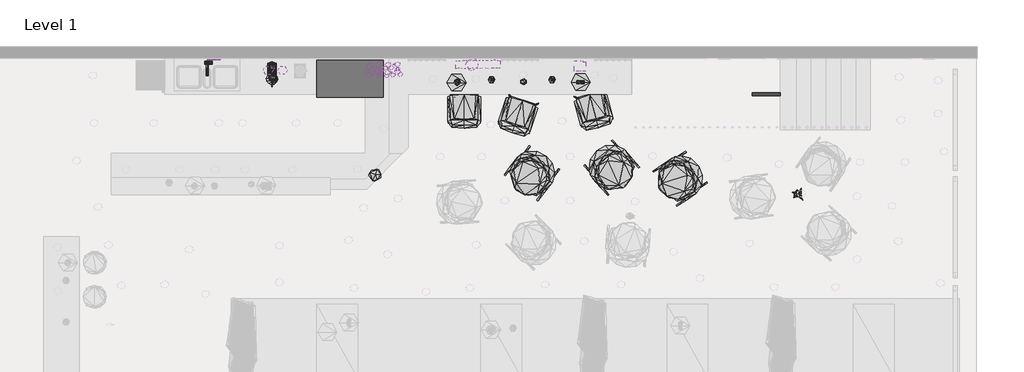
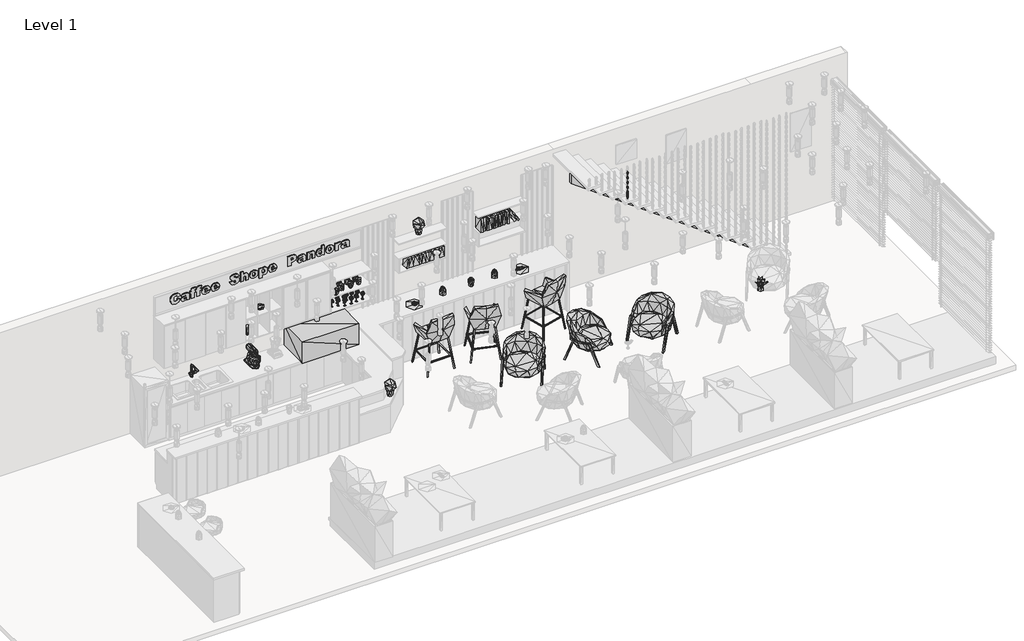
# One storey, part 3 of 12: 42 geographic elements, 8 proxies, 1 member.
"""IFC4 building model written with IfcOpenShell, lengths in millimetres."""

from ifc_helpers import new_model, si_unit, frame, origin, place, context, project, spatial, polyline, outline, extrude, transform, mapped, element, save
from components import family1_family1_50133a43, family1_family1_d3af85bb, geographic_element_4494242b, geographic_element_9d12d4a3, geographic_element_bb1f53bf, geographic_element_69d9df20, geographic_element_40146519, geographic_element_60f9364b, geographic_element_477b9549, enscape_assetdefinition_books_02_enscape_assetdefinition_e079a25d, enscape_assetdefinition_books_11_enscape_assetdefinition_afcb8159, enscape_assetdefinition_coffee_maker_05_enscape_f8d00087, enscape_assetdefinition_cup_porcelain_enscape_8265f1d1, enscape_assetdefinition_electric_mixer_enscape_94847bc3, enscape_assetdefinition_high_stool_05_enscape_95fe6d1b, enscape_assetdefinition_interior_plant_64_enscape_317deba9, enscape_assetdefinition_lounge_armchair_12_enscape_3d8580c7, enscape_assetdefinition_napkin_folded_enscape_c1d7dbe0, enscape_assetdefinition_plate_flat_enscape_assetdefinition_addf1cdb, enscape_assetdefinition_tap_enscape_assetdefinition_tap_beeff97c, enscape_assetdefinition_wine_glass_enscape_assetdefinition_9b546fad

model = new_model("IFC4")

# Units and contexts
model_context = context("Model", 3, world=origin())
ifc_project = project(units=[si_unit("LENGTHUNIT", "METRE", prefix="MILLI")], contexts=[model_context])

# Site, building, storey
site = spatial("IfcSite", under=ifc_project)
building = spatial("IfcBuilding", under=site)
storey = spatial("IfcBuildingStorey", under=building, Name="Level 1", Elevation=0.0)

# Proxies
placement = place(None, origin())
element("IfcBuildingElementProxy", 1, Name="600mm Arial", ObjectType="600mm Arial", at=placement, inside=storey, context=model_context, shape_type="SweptSolid", body=[
    extrude(outline(polyline([(2498.880992, 1407.8744291), (2481.9710834, 1402.5093763), (2469.6114776, 1394.6539552), (2462.0481367, 1383.3858071), (2459.527023, 1367.7825733), (2462.6092382, 1351.4645116), (2471.8558836, 1339.2816911), (2489.4037569, 1331.6952912), (2517.3896555, 1329.1664913), (2540.6638387, 1331.3494067), (2556.7436244, 1337.8981531), (2569.4260558, 1352.0102404), (2573.6535329, 1371.2260456), (2569.9026078, 1388.5663881), (2559.2032475, 1401.6638809), (2546.1057547, 1407.8744291), (2558.0349265, 1462.9699856), (2585.874785, 1449.3805682), (2605.444161, 1430.1340178), (2617.019762, 1403.9236596), (2620.8782956, 1369.4428189), (2619.1988343, 1346.1820867), (2614.1604502, 1325.7153327), (2605.7631433, 1308.0425567), (2594.0069137, 1293.1637588), (2579.1223511, 1281.367176), (2561.340045, 1272.9410454), (2540.6599955, 1267.8853671), (2517.0822026, 1266.200141), (2482.8934421, 1269.9971841), (2455.468645, 1281.3883134), (2435.0460873, 1298.0061417), (2421.8640449, 1317.4832818), (2414.6927065, 1341.403116), (2412.3022603, 1371.3490267), (2414.2776451, 1396.129729), (2420.2037994, 1416.1141664), (2430.0115463, 1432.2708153), (2443.631709, 1445.5681525), (2461.0719738, 1455.8524514), (2482.3400269, 1462.9699856), (2498.880992, 1407.8744291)])), frame((0.0, 2269.760891, 0.0), z_axis=(0.0, 1.0, 0.0), x_axis=(0.0, 0.0, 1.0)), (0.0, 0.0, 1.0), 20.0),
    extrude(outline(polyline([(2510.6871826, 1541.6779235), (2522.4318827, 1549.4257361), (2526.4287702, 1567.8114185), (2522.9238073, 1581.1548736), (2510.6871826, 1584.9672893), (2504.1999268, 1565.9359559), (2495.4990102, 1526.6742229), (2489.0578724, 1505.3831108), (2479.9418944, 1492.0550283), (2468.0434679, 1484.9989847), (2453.2549842, 1482.6469701), (2437.2981796, 1485.9059707), (2424.108451, 1495.6829723), (2415.253808, 1511.7473854), (2412.3022603, 1533.8686203), (2414.2084682, 1551.6547695), (2419.9270918, 1567.1350222), (2439.0506611, 1588.1647993), (2427.2137251, 1590.1017525), (2416.2376572, 1594.2523664), (2416.2376572, 1647.0727716), (2431.1798673, 1641.3541479), (2447.3518889, 1640.0628458), (2511.9169942, 1640.0628458), (2533.6231677, 1636.0352131), (2551.2094725, 1624.9976546), (2558.6037143, 1613.790997), (2562.9541726, 1600.0939711), (2565.7827391, 1560.4940399), (2563.1078991, 1531.9316671), (2555.636794, 1511.2400882), (2539.74148, 1495.1295571), (2514.6225795, 1486.582367), (2510.6871826, 1541.6779235)]), holes=[polyline([(2483.1394044, 1584.9672893), (2476.375441, 1584.9672893), (2463.4931652, 1581.8005246), (2455.0997015, 1571.1011643), (2451.6562292, 1554.7754163), (2454.8229939, 1542.0776123), (2463.0319859, 1537.7425266), (2470.8412891, 1542.1083575), (2477.6052525, 1562.4002478), (2483.1394044, 1584.9672893)])]), frame((0.0, 2269.760891, 0.0), z_axis=(0.0, 1.0, 0.0), x_axis=(0.0, 0.0, 1.0)), (0.0, 0.0, 1.0), 20.0),
    extrude(outline(polyline([(2561.8473422, 1844.7034843), (2572.6081931, 1845.3798806), (2579.3721565, 1850.1761456), (2581.5243267, 1861.3674305), (2580.1100435, 1877.9698861), (2617.0658799, 1884.0574532), (2620.8782956, 1841.4444837), (2616.6661912, 1813.527762), (2605.659378, 1798.7085331), (2588.1345637, 1791.5141356), (2568.4268339, 1789.6079278), (2561.8473422, 1789.6079278), (2561.8473422, 1769.9309433), (2522.4933733, 1769.9309433), (2522.4933733, 1789.6079278), (2416.2376572, 1789.6079278), (2416.2376572, 1844.7034843), (2522.4933733, 1844.7034843), (2522.4933733, 1872.2512625), (2561.8473422, 1872.2512625), (2561.8473422, 1844.7034843)])), frame((0.0, 2269.760891, 0.0), z_axis=(0.0, 1.0, 0.0), x_axis=(0.0, 0.0, 1.0)), (0.0, 0.0, 1.0), 20.0),
    extrude(outline(polyline([(2561.8473422, 1734.5123713), (2572.6081931, 1735.1887676), (2579.3721565, 1739.9850326), (2581.5243267, 1751.1763175), (2580.1100435, 1767.7787731), (2617.0658799, 1773.8663402), (2620.8782956, 1731.2533707), (2616.6661912, 1703.336649), (2605.659378, 1688.5174201), (2588.1345637, 1681.3230226), (2568.4268339, 1679.4168148), (2561.8473422, 1679.4168148), (2561.8473422, 1659.7398303), (2522.4933733, 1659.7398303), (2522.4933733, 1679.4168148), (2416.2376572, 1679.4168148), (2416.2376572, 1734.5123713), (2522.4933733, 1734.5123713), (2522.4933733, 1762.0601495), (2561.8473422, 1762.0601495), (2561.8473422, 1734.5123713)])), frame((0.0, 2269.760891, 0.0), z_axis=(0.0, 1.0, 0.0), x_axis=(0.0, 0.0, 1.0)), (0.0, 0.0, 1.0), 20.0),
    extrude(outline(polyline([(2475.2686106, 2053.2795196), (2481.60214, 2053.2795196), (2507.8432435, 2050.9582504), (2528.642431, 2043.9944426), (2544.5838629, 2032.595627), (2556.2516998, 2016.9693342), (2563.3999793, 1996.008734), (2565.7827391, 1968.6069958), (2560.456118, 1934.9332189), (2553.7978415, 1921.1574082), (2544.4762544, 1909.422316), (2519.9030828, 1893.3502166), (2488.7965374, 1887.9928501), (2466.1526326, 1890.6523175), (2446.6754925, 1898.6307198), (2431.1952399, 1910.6521275), (2420.5419975, 1925.4406112), (2414.3621946, 1944.6102984), (2412.3022603, 1969.7753168), (2415.0462773, 1998.514475), (2423.2783282, 2019.6749196), (2437.8285359, 2035.7777643), (2459.527023, 2049.3441227), (2463.4624199, 1994.2485662), (2455.2841732, 1984.9634892), (2451.6562292, 1970.0827697), (2453.5470645, 1958.8761121), (2459.2195701, 1949.9753512), (2475.2686106, 1943.0884066), (2475.2686106, 2053.2795196)]), holes=[polyline([(2502.8163888, 1998.1839631), (2502.8163888, 1943.2113878), (2518.189033, 1949.6678983), (2524.3688359, 1958.9376027), (2526.4287702, 1970.8821472), (2525.0606049, 1981.3124862), (2520.9561089, 1989.4830465), (2513.6848482, 1995.1786112), (2502.8163888, 1998.1839631)])]), frame((0.0, 2269.760891, 0.0), z_axis=(0.0, 1.0, 0.0), x_axis=(0.0, 0.0, 1.0)), (0.0, 0.0, 1.0), 20.0),
    extrude(outline(polyline([(2475.2686106, 2238.2431736), (2481.60214, 2238.2431736), (2507.8432435, 2235.9219043), (2528.642431, 2228.9580965), (2544.5838629, 2217.5592809), (2556.2516998, 2201.9329882), (2563.3999793, 2180.9723879), (2565.7827391, 2153.5706498), (2560.456118, 2119.8968729), (2553.7978415, 2106.1210622), (2544.4762544, 2094.38597), (2519.9030828, 2078.3138706), (2488.7965374, 2072.9565041), (2466.1526326, 2075.6159715), (2446.6754925, 2083.5943738), (2431.1952399, 2095.6157815), (2420.5419975, 2110.4042651), (2414.3621946, 2129.5739524), (2412.3022603, 2154.7389708), (2415.0462773, 2183.4781289), (2423.2783282, 2204.6385736), (2437.8285359, 2220.7414183), (2459.527023, 2234.3077767), (2463.4624199, 2179.2122202), (2455.2841732, 2169.9271432), (2451.6562292, 2155.0464236), (2453.5470645, 2143.8397661), (2459.2195701, 2134.9390051), (2475.2686106, 2128.0520606), (2475.2686106, 2238.2431736)]), holes=[polyline([(2502.8163888, 2183.1476171), (2502.8163888, 2128.1750417), (2518.189033, 2134.6315523), (2524.3688359, 2143.9012567), (2526.4287702, 2155.8458011), (2525.0606049, 2166.2761402), (2520.9561089, 2174.4467005), (2513.6848482, 2180.1422652), (2502.8163888, 2183.1476171)])]), frame((0.0, 2269.760891, 0.0), z_axis=(0.0, 1.0, 0.0), x_axis=(0.0, 0.0, 1.0)), (0.0, 0.0, 1.0), 20.0),
    extrude(outline(polyline([(2483.2623855, 2442.883812), (2455.0997015, 2449.7246387), (2432.3481882, 2465.0819101), (2423.5780948, 2476.8419829), (2417.3137423, 2492.5067072), (2412.3022603, 2535.5501108), (2414.4390578, 2562.0832945), (2420.8494504, 2583.6357415), (2431.4027706, 2600.5840817), (2445.9683509, 2613.3049447), (2463.2856345, 2621.260288), (2482.0940646, 2623.9120691), (2498.0124376, 2621.928998), (2512.3166829, 2615.9797848), (2524.7147204, 2605.6647406), (2534.9144698, 2590.5841767), (2543.9689571, 2567.4022294), (2552.9312087, 2532.7830348), (2556.5745253, 2520.2235846), (2560.4945496, 2515.1352394), (2569.3491926, 2513.7209561), (2580.7556945, 2517.8408247), (2585.4597236, 2530.13894), (2583.822537, 2538.9705241), (2578.9109772, 2545.6653106), (2557.9119454, 2553.074925), (2561.5398894, 2616.0412753), (2588.2882901, 2608.2550311), (2606.6739725, 2592.3981487), (2617.3272149, 2568.0248214), (2620.8782956, 2534.6892427), (2618.9105972, 2507.1107191), (2613.0075019, 2486.1116873), (2603.6763069, 2470.6237483), (2591.4243095, 2459.5785035), (2577.2814769, 2452.9605803), (2562.2777763, 2450.7546058), (2540.8329377, 2455.1050641), (2523.6002037, 2468.156439), (2509.8570599, 2491.1846598), (2499.0039731, 2525.8345997), (2493.2238589, 2545.6806832), (2487.0748013, 2555.7805104), (2472.8089875, 2560.9457188), (2464.8997621, 2559.3700228), (2458.0205039, 2554.6429347), (2453.2472979, 2547.0104169), (2451.6562292, 2536.7184317), (2454.8229939, 2522.8984246), (2464.323288, 2512.6756163), (2487.0748013, 2505.8501623), (2483.2623855, 2442.883812)])), frame((0.0, 2269.760891, 0.0), z_axis=(0.0, 1.0, 0.0), x_axis=(0.0, 0.0, 1.0)), (0.0, 0.0, 1.0), 20.0),
    extrude(outline(polyline([(2616.9428987, 2651.4598474), (2416.2376572, 2651.4598474), (2416.2376572, 2706.5554039), (2486.8903295, 2706.5554039), (2503.9078466, 2708.1772178), (2514.7455607, 2713.0426597), (2520.5564202, 2720.5214511), (2522.4933733, 2729.9833135), (2521.0560311, 2738.3460319), (2516.7440044, 2744.6180707), (2508.9731328, 2748.538095), (2497.1592558, 2749.8447697), (2416.2376572, 2749.8447697), (2416.2376572, 2804.9403262), (2509.2114088, 2804.9403262), (2534.2688187, 2801.6582667), (2551.8858689, 2791.8120881), (2562.3085216, 2776.2626586), (2565.7827391, 2755.8708462), (2560.7405119, 2729.2146813), (2543.9535845, 2706.5554039), (2616.9428987, 2706.5554039), (2616.9428987, 2651.4598474)])), frame((0.0, 2269.760891, 0.0), z_axis=(0.0, 1.0, 0.0), x_axis=(0.0, 0.0, 1.0)), (0.0, 0.0, 1.0), 20.0),
    extrude(outline(polyline([(2488.6120657, 2832.4881045), (2471.4292927, 2834.0907026), (2455.9759422, 2838.8984971), (2442.2520142, 2846.9114878), (2430.2575086, 2858.1296748), (2416.7910724, 2882.2800987), (2412.3022603, 2912.9177785), (2417.713431, 2946.7452818), (2424.4773944, 2960.5748968), (2433.9469432, 2972.3484206), (2458.6507823, 2988.466638), (2489.4729338, 2993.8393771), (2517.2205564, 2989.5042914), (2540.2026593, 2976.4990345), (2551.3939442, 2964.4468815), (2559.3877192, 2949.8121243), (2564.1839841, 2932.5947629), (2565.7827391, 2912.7947973), (2560.3408231, 2879.6590629), (2553.5384281, 2865.9562723), (2544.0150751, 2854.1635327), (2519.2804907, 2837.9069615), (2488.6120657, 2832.4881045)]), holes=[polyline([(2489.1039903, 2887.583661), (2505.5680921, 2889.4206919), (2517.2051837, 2894.9317848), (2524.1228736, 2903.2714443), (2526.4287702, 2913.5941748), (2524.1536189, 2923.4249807), (2517.3281649, 2931.5186778), (2505.8601724, 2936.9375349), (2489.6574055, 2938.7438206), (2472.4554167, 2936.9529075), (2460.695344, 2931.5801684), (2453.9160079, 2923.4096081), (2451.6562292, 2913.2252313), (2453.9467532, 2903.1023452), (2460.8183251, 2894.8702943), (2472.4707894, 2889.4053193), (2489.1039903, 2887.583661)])]), frame((0.0, 2269.760891, 0.0), z_axis=(0.0, 1.0, 0.0), x_axis=(0.0, 0.0, 1.0)), (0.0, 0.0, 1.0), 20.0),
    extrude(outline(polyline([(2361.1421007, 3021.3871553), (2361.1421007, 3076.4827118), (2428.7202442, 3076.4827118), (2416.4528742, 3095.8829887), (2412.3022603, 3119.9565494), (2417.1215842, 3144.791056), (2431.579556, 3164.9369061), (2455.1996237, 3178.2880475), (2487.5052353, 3182.7384279), (2518.0429928, 3178.6646773), (2543.2464429, 3166.4434252), (2553.1060725, 3157.4504284), (2560.1486651, 3146.7664407), (2565.7827391, 3120.3254928), (2564.2147294, 3105.8752074), (2559.5107003, 3092.7777146), (2541.6169426, 3072.4858244), (2561.8473422, 3072.4858244), (2561.8473422, 3021.3871553), (2361.1421007, 3021.3871553)]), holes=[polyline([(2488.2431222, 3076.0522778), (2505.6218964, 3077.943113), (2517.4204008, 3083.6156187), (2524.1766778, 3092.1320635), (2526.4287702, 3102.5547162), (2524.1997368, 3112.262541), (2517.5126366, 3120.3562381), (2506.0600168, 3125.8212131), (2489.5344243, 3127.6428714), (2471.9250605, 3125.89039), (2460.2956552, 3120.6329457), (2453.8160857, 3112.7928972), (2451.6562292, 3103.2926032), (2453.9083216, 3092.5086933), (2460.6645987, 3083.7693451), (2472.0634143, 3077.9815446), (2488.2431222, 3076.0522778)])]), frame((0.0, 2269.760891, 0.0), z_axis=(0.0, 1.0, 0.0), x_axis=(0.0, 0.0, 1.0)), (0.0, 0.0, 1.0), 20.0),
    extrude(outline(polyline([(2475.2686106, 3367.7020819), (2481.60214, 3367.7020819), (2507.8432435, 3365.3808127), (2528.642431, 3358.4170049), (2544.5838629, 3347.0181893), (2556.2516998, 3331.3918965), (2563.3999793, 3310.4312963), (2565.7827391, 3283.0295581), (2560.456118, 3249.3557812), (2553.7978415, 3235.5799705), (2544.4762544, 3223.8448783), (2519.9030828, 3207.7727789), (2488.7965374, 3202.4154124), (2466.1526326, 3205.0748798), (2446.6754925, 3213.0532821), (2431.1952399, 3225.0746898), (2420.5419975, 3239.8631735), (2414.3621946, 3259.0328607), (2412.3022603, 3284.1978791), (2415.0462773, 3312.9370373), (2423.2783282, 3334.0974819), (2437.8285359, 3350.2003266), (2459.527023, 3363.766685), (2463.4624199, 3308.6711285), (2455.2841732, 3299.3860515), (2451.6562292, 3284.505332), (2453.5470645, 3273.2986744), (2459.2195701, 3264.3979135), (2475.2686106, 3257.5109689), (2475.2686106, 3367.7020819)]), holes=[polyline([(2502.8163888, 3312.6065254), (2502.8163888, 3257.6339501), (2518.189033, 3264.0904606), (2524.3688359, 3273.360165), (2526.4287702, 3285.3047095), (2525.0606049, 3295.7350485), (2520.9561089, 3303.9056089), (2513.6848482, 3309.6011735), (2502.8163888, 3312.6065254)])]), frame((0.0, 2269.760891, 0.0), z_axis=(0.0, 1.0, 0.0), x_axis=(0.0, 0.0, 1.0)), (0.0, 0.0, 1.0), 20.0),
    extrude(outline(polyline([(2616.9428987, 3584.148911), (2416.2376572, 3584.148911), (2416.2376572, 3647.1152613), (2479.2040075, 3647.1152613), (2479.2040075, 3680.5046444), (2483.869605, 3712.6719022), (2489.7016018, 3725.210215), (2497.8663974, 3735.3849838), (2520.1644177, 3748.874479), (2549.7336987, 3753.3709775), (2578.2730125, 3749.2049909), (2599.4488297, 3736.7070312), (2612.5693815, 3715.8463532), (2616.9428987, 3686.5922114), (2616.9428987, 3584.148911)]), holes=[polyline([(2526.4287702, 3647.1152613), (2569.718136, 3647.1152613), (2569.718136, 3663.1643018), (2568.1270674, 3676.4462663), (2563.3538614, 3684.6860036), (2547.8889814, 3690.4046272), (2539.3264186, 3688.7597542), (2532.4548467, 3683.8251355), (2527.9352893, 3674.816766), (2526.4287702, 3660.950641), (2526.4287702, 3647.1152613)])]), frame((0.0, 2269.760891, 0.0), z_axis=(0.0, 1.0, 0.0), x_axis=(0.0, 0.0, 1.0)), (0.0, 0.0, 1.0), 20.0),
    extrude(outline(polyline([(2510.6871826, 3836.0143122), (2522.4318827, 3843.7621248), (2526.4287702, 3862.1478072), (2522.9238073, 3875.4912623), (2510.6871826, 3879.303678), (2504.1999268, 3860.2723446), (2495.4990102, 3821.0106116), (2489.0578724, 3799.7194995), (2479.9418944, 3786.391417), (2468.0434679, 3779.3353734), (2453.2549842, 3776.9833588), (2437.2981796, 3780.2423594), (2424.108451, 3790.019361), (2415.253808, 3806.0837741), (2412.3022603, 3828.205009), (2414.2084682, 3845.9911582), (2419.9270918, 3861.4714109), (2439.0506611, 3882.501188), (2427.2137251, 3884.4381412), (2416.2376572, 3888.5887551), (2416.2376572, 3941.4091603), (2431.1798673, 3935.6905366), (2447.3518889, 3934.3992345), (2511.9169942, 3934.3992345), (2533.6231677, 3930.3716018), (2551.2094725, 3919.3340433), (2558.6037143, 3908.1273857), (2562.9541726, 3894.4303598), (2565.7827391, 3854.8304286), (2563.1078991, 3826.2680558), (2555.636794, 3805.5764769), (2539.74148, 3789.4659458), (2514.6225795, 3780.9187557), (2510.6871826, 3836.0143122)]), holes=[polyline([(2483.1394044, 3879.303678), (2476.375441, 3879.303678), (2463.4931652, 3876.1369133), (2455.0997015, 3865.437553), (2451.6562292, 3849.111805), (2454.8229939, 3836.414001), (2463.0319859, 3832.0789153), (2470.8412891, 3836.4447462), (2477.6052525, 3856.7366365), (2483.1394044, 3879.303678)])]), frame((0.0, 2269.760891, 0.0), z_axis=(0.0, 1.0, 0.0), x_axis=(0.0, 0.0, 1.0)), (0.0, 0.0, 1.0), 20.0),
    extrude(outline(polyline([(2561.8473422, 3965.8824097), (2416.2376572, 3965.8824097), (2416.2376572, 4020.9779662), (2486.8903295, 4020.9779662), (2503.9078466, 4022.5997801), (2514.7455607, 4027.465222), (2520.5564202, 4034.9440134), (2522.4933733, 4044.4058758), (2521.0560311, 4052.7685942), (2516.7440044, 4059.040633), (2508.9731328, 4062.9606573), (2497.1592558, 4064.267332), (2416.2376572, 4064.267332), (2416.2376572, 4119.3628885), (2509.2114088, 4119.3628885), (2534.3456819, 4116.080829), (2551.9473594, 4106.2346504), (2562.3238942, 4090.5929851), (2565.7827391, 4069.924465), (2564.2224158, 4054.0675826), (2559.5414456, 4040.8086771), (2551.2325315, 4028.9179369), (2538.7883761, 4017.1655504), (2561.8473422, 4017.1655504), (2561.8473422, 3965.8824097)])), frame((0.0, 2269.760891, 0.0), z_axis=(0.0, 1.0, 0.0), x_axis=(0.0, 0.0, 1.0)), (0.0, 0.0, 1.0), 20.0),
    extrude(outline(polyline([(2616.9428987, 4304.3265425), (2616.9428987, 4249.230986), (2549.2417741, 4249.230986), (2561.6628705, 4230.6608319), (2565.7827391, 4207.3559034), (2560.9403562, 4183.3515196), (2546.4132076, 4163.9743017), (2522.7700809, 4151.1765755), (2490.5797641, 4146.9106668), (2460.3878911, 4150.7692004), (2435.1152642, 4162.3448015), (2425.134575, 4170.9304232), (2418.0055113, 4181.2531537), (2412.3022603, 4207.1099411), (2413.8395247, 4221.0068114), (2418.4513179, 4233.550889), (2436.5295474, 4253.2278735), (2416.2376572, 4253.2278735), (2416.2376572, 4304.3265425), (2616.9428987, 4304.3265425)]), holes=[polyline([(2489.9033678, 4249.66142), (2472.4400441, 4247.9089386), (2460.6338534, 4242.6514943), (2453.9006353, 4234.7807005), (2451.6562292, 4225.1881706), (2453.8852626, 4216.1413695), (2460.5723628, 4208.6779508), (2472.0403553, 4203.6741552), (2488.6120657, 4202.0062233), (2506.13688, 4203.6203509), (2517.7585989, 4208.4627338), (2524.2612274, 4215.7032492), (2526.4287702, 4224.5117743), (2524.1689915, 4234.457875), (2517.3896555, 4242.5285132), (2505.9985262, 4247.8781933), (2489.9033678, 4249.66142)])]), frame((0.0, 2269.760891, 0.0), z_axis=(0.0, 1.0, 0.0), x_axis=(0.0, 0.0, 1.0)), (0.0, 0.0, 1.0), 20.0),
    extrude(outline(polyline([(2488.6120657, 4331.8743207), (2471.4292927, 4333.4769189), (2455.9759422, 4338.2847133), (2442.2520142, 4346.2977041), (2430.2575086, 4357.5158911), (2416.7910724, 4381.666315), (2412.3022603, 4412.3039947), (2417.713431, 4446.1314981), (2424.4773944, 4459.9611131), (2433.9469432, 4471.7346369), (2458.6507823, 4487.8528542), (2489.4729338, 4493.2255934), (2517.2205564, 4488.8905077), (2540.2026593, 4475.8852508), (2551.3939442, 4463.8330978), (2559.3877192, 4449.1983406), (2564.1839841, 4431.9809792), (2565.7827391, 4412.1810136), (2560.3408231, 4379.0452792), (2553.5384281, 4365.3424886), (2544.0150751, 4353.5497489), (2519.2804907, 4337.2931778), (2488.6120657, 4331.8743207)]), holes=[polyline([(2489.1039903, 4386.9698772), (2505.5680921, 4388.8069082), (2517.2051837, 4394.3180011), (2524.1228736, 4402.6576606), (2526.4287702, 4412.9803911), (2524.1536189, 4422.811197), (2517.3281649, 4430.9048941), (2505.8601724, 4436.3237512), (2489.6574055, 4438.1300369), (2472.4554167, 4436.3391238), (2460.695344, 4430.9663847), (2453.9160079, 4422.7958244), (2451.6562292, 4412.6114476), (2453.9467532, 4402.4885615), (2460.8183251, 4394.2565106), (2472.4707894, 4388.7915356), (2489.1039903, 4386.9698772)])]), frame((0.0, 2269.760891, 0.0), z_axis=(0.0, 1.0, 0.0), x_axis=(0.0, 0.0, 1.0)), (0.0, 0.0, 1.0), 20.0),
    extrude(outline(polyline([(2561.8473422, 4520.7733716), (2416.2376572, 4520.7733716), (2416.2376572, 4575.8689281), (2465.3686278, 4575.8689281), (2494.9609677, 4578.0518436), (2513.392768, 4584.60059), (2520.218222, 4591.9333412), (2522.4933733, 4601.7564608), (2518.3735047, 4617.4980484), (2557.5430019, 4634.8998815), (2563.7228048, 4620.7263036), (2565.7827391, 4607.7210467), (2564.3146516, 4596.7987831), (2559.9103891, 4587.7673547), (2538.4194326, 4572.118003), (2561.8473422, 4572.118003), (2561.8473422, 4520.7733716)])), frame((0.0, 2269.760891, 0.0), z_axis=(0.0, 1.0, 0.0), x_axis=(0.0, 0.0, 1.0)), (0.0, 0.0, 1.0), 20.0),
    extrude(outline(polyline([(2510.6871826, 4697.8662318), (2522.4318827, 4705.6140444), (2526.4287702, 4723.9997268), (2522.9238073, 4737.3431819), (2510.6871826, 4741.1555976), (2504.1999268, 4722.1242642), (2495.4990102, 4682.8625312), (2489.0578724, 4661.5714191), (2479.9418944, 4648.2433366), (2468.0434679, 4641.187293), (2453.2549842, 4638.8352784), (2437.2981796, 4642.094279), (2424.108451, 4651.8712806), (2415.253808, 4667.9356937), (2412.3022603, 4690.0569286), (2414.2084682, 4707.8430778), (2419.9270918, 4723.3233305), (2439.0506611, 4744.3531076), (2427.2137251, 4746.2900608), (2416.2376572, 4750.4406747), (2416.2376572, 4803.2610799), (2431.1798673, 4797.5424562), (2447.3518889, 4796.2511541), (2511.9169942, 4796.2511541), (2533.6231677, 4792.2235214), (2551.2094725, 4781.1859629), (2558.6037143, 4769.9793053), (2562.9541726, 4756.2822794), (2565.7827391, 4716.6823482), (2563.1078991, 4688.1199754), (2555.636794, 4667.4283965), (2539.74148, 4651.3178654), (2514.6225795, 4642.7706753), (2510.6871826, 4697.8662318)]), holes=[polyline([(2483.1394044, 4741.1555976), (2476.375441, 4741.1555976), (2463.4931652, 4737.9888329), (2455.0997015, 4727.2894726), (2451.6562292, 4710.9637246), (2454.8229939, 4698.2659206), (2463.0319859, 4693.9308349), (2470.8412891, 4698.2966658), (2477.6052525, 4718.5885561), (2483.1394044, 4741.1555976)])]), frame((0.0, 2269.760891, 0.0), z_axis=(0.0, 1.0, 0.0), x_axis=(0.0, 0.0, 1.0)), (0.0, 0.0, 1.0), 20.0),
])
family1_family1_shape = family1_family1_50133a43(model_context)
element("IfcBuildingElementProxy", 2, Name="Family1 : Family1", ObjectType="Family1 : Family1", at=placement, inside=storey, context=model_context, shape_type="MappedRepresentation", body=[
    mapped(family1_family1_shape, transform((11865.1232124, 1139.760891, 1153.4212736), x_axis=(-0.03315618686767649, 0.0, 0.9994501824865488), y_axis=(-0.9994501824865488, 0.0, -0.03315618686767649), z_axis=(0.0, -1.0, 0.0))),
])
element("IfcBuildingElementProxy", 3, Name="Family1 : Family1", ObjectType="Family1 : Family1", at=placement, inside=storey, context=model_context, shape_type="MappedRepresentation", body=[
    mapped(family1_family1_shape, transform((11865.1232124, 1139.760891, 1253.4212736), x_axis=(-0.03315618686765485, 0.0, 0.9994501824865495), y_axis=(-0.9994501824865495, 0.0, -0.03315618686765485), z_axis=(0.0, -1.0, 0.0))),
])
element("IfcBuildingElementProxy", 4, Name="Family1 : Family1", ObjectType="Family1 : Family1", at=placement, inside=storey, context=model_context, shape_type="MappedRepresentation", body=[
    mapped(family1_family1_shape, transform((11865.1232124, 1139.760891, 1353.4212736), x_axis=(-0.03315618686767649, 0.0, 0.9994501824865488), y_axis=(-0.9994501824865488, 0.0, -0.03315618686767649), z_axis=(0.0, -1.0, 0.0))),
])
element("IfcBuildingElementProxy", 5, Name="Family1 : Family1", ObjectType="Family1 : Family1", at=placement, inside=storey, context=model_context, shape_type="MappedRepresentation", body=[
    mapped(family1_family1_shape, transform((11865.1232124, 1139.760891, 1453.4212736), x_axis=(-0.03315618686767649, 0.0, 0.9994501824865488), y_axis=(-0.9994501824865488, 0.0, -0.03315618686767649), z_axis=(0.0, -1.0, 0.0))),
])
element("IfcBuildingElementProxy", 6, Name="Family1 : Family1", ObjectType="Family1 : Family1", at=placement, inside=storey, context=model_context, shape_type="MappedRepresentation", body=[
    mapped(family1_family1_shape, transform((11865.1232124, 1139.760891, 1553.4212736), x_axis=(-0.03315618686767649, 0.0, 0.9994501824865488), y_axis=(-0.9994501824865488, 0.0, -0.03315618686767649), z_axis=(0.0, -1.0, 0.0))),
])
element("IfcBuildingElementProxy", 7, Name="Family1 : Family1", ObjectType="Family1 : Family1", at=placement, inside=storey, context=model_context, shape_type="MappedRepresentation", body=[
    mapped(family1_family1_shape, transform((11865.1232124, 1139.760891, 1653.4212736), x_axis=(-0.03315618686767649, 0.0, 0.9994501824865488), y_axis=(-0.9994501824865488, 0.0, -0.03315618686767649), z_axis=(0.0, -1.0, 0.0))),
])
family1_family1_2_shape = family1_family1_d3af85bb(model_context)
element("IfcBuildingElementProxy", 8, Name="Family1 : Family1", ObjectType="Family1 : Family1", at=placement, inside=storey, context=model_context, shape_type="MappedRepresentation", body=[
    mapped(family1_family1_2_shape, transform((11865.1232124, 1139.760891, 1203.4212736), x_axis=(-0.03315618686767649, 0.0, 0.9994501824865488), y_axis=(-0.9994501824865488, 0.0, -0.03315618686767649), z_axis=(0.0, -1.0, 0.0))),
])

# Geographic elements
geographic_element_shape = geographic_element_4494242b(model_context)
element("IfcGeographicElement", 9, ObjectType="Enscape AssetDefinition - Papercup, Big : Enscape AssetDefinition - Papercup, Big", at=placement, inside=storey, context=model_context, shape_type="MappedRepresentation", body=[
    mapped(geographic_element_shape, transform((6990.6769044, 1909.760891, 1040.0), x_axis=(1.0, 0.0, 0.0), y_axis=(0.0, 1.0, 0.0), z_axis=(0.0, 0.0, 1.0))),
])
geographic_element_2_shape = geographic_element_9d12d4a3(model_context)
element("IfcGeographicElement", 10, ObjectType="Enscape AssetDefinition - Pastry 05 : Enscape AssetDefinition - Pastry 05", at=placement, inside=storey, context=model_context, shape_type="MappedRepresentation", body=[
    mapped(geographic_element_2_shape, transform((7950.6769044, 1899.760891, 1055.0), x_axis=(1.0, 0.0, 0.0), y_axis=(0.0, 1.0, 0.0), z_axis=(0.0, 0.0, 1.0))),
])
geographic_element_3_shape = geographic_element_bb1f53bf(model_context)
element("IfcGeographicElement", 11, ObjectType="Enscape AssetDefinition - Pastry 09 : Enscape AssetDefinition - Pastry 09", at=placement, inside=storey, context=model_context, shape_type="MappedRepresentation", body=[
    mapped(geographic_element_3_shape, transform((5870.6769044, 1899.760891, 1055.0), x_axis=(1.0, 0.0, 0.0), y_axis=(0.0, 1.0, 0.0), z_axis=(0.0, 0.0, 1.0))),
])
geographic_element_4_shape = geographic_element_69d9df20(model_context)
element("IfcGeographicElement", 12, ObjectType="Enscape AssetDefinition - Rosemary, Potted : Enscape AssetDefinition - Rosemary, Potted", at=placement, inside=storey, context=model_context, shape_type="MappedRepresentation", body=[
    mapped(geographic_element_4_shape, transform((4486.020542, 339.6193639, 590.0), x_axis=(1.0, 0.0, 0.0), y_axis=(0.0, 1.0, 0.0), z_axis=(0.0, 0.0, 1.0))),
])
element("IfcGeographicElement", 13, ObjectType="Enscape AssetDefinition - Rosemary, Potted : Enscape AssetDefinition - Rosemary, Potted", at=placement, inside=storey, context=model_context, shape_type="MappedRepresentation", body=[
    mapped(geographic_element_4_shape, transform((6120.6769044, 2199.760891, 2260.0), x_axis=(1.0, 0.0, 0.0), y_axis=(0.0, 1.0, 0.0), z_axis=(0.0, 0.0, 1.0))),
])
geographic_element_5_shape = geographic_element_40146519(model_context)
element("IfcGeographicElement", 14, ObjectType="Enscape AssetDefinition - Cereal Bowl 02 : Enscape AssetDefinition - Cereal Bowl 02", at=placement, inside=storey, context=model_context, shape_type="MappedRepresentation", body=[
    mapped(geographic_element_5_shape, transform((2933.7993478, 2099.760891, 1860.1419541), x_axis=(1.0, 0.0, 0.0), y_axis=(0.0, 1.0, 0.0), z_axis=(0.0, 0.0, 1.0))),
])
geographic_element_6_shape = geographic_element_60f9364b(model_context)
element("IfcGeographicElement", 15, ObjectType="Enscape AssetDefinition - Stack of Bowls 02 : Enscape AssetDefinition - Stack of Bowls 02", at=placement, inside=storey, context=model_context, shape_type="MappedRepresentation", body=[
    mapped(geographic_element_6_shape, transform((2688.7993478, 2099.760891, 1420.0), x_axis=(1.0, 0.0, 0.0), y_axis=(0.0, 1.0, 0.0), z_axis=(0.0, 0.0, 1.0))),
])
geographic_element_7_shape = geographic_element_477b9549(model_context)
element("IfcGeographicElement", 16, ObjectType="Enscape AssetDefinition - Coffee Mug : Enscape AssetDefinition - Coffee Mug", at=placement, inside=storey, context=model_context, shape_type="MappedRepresentation", body=[
    mapped(geographic_element_7_shape, transform((4534.0007184, 2089.760891, 1720.0), x_axis=(0.0, -1.0, 0.0), y_axis=(1.0, 0.0, 0.0), z_axis=(0.0, 0.0, 1.0))),
])
element("IfcGeographicElement", 17, ObjectType="Enscape AssetDefinition - Coffee Mug : Enscape AssetDefinition - Coffee Mug", at=placement, inside=storey, context=model_context, shape_type="MappedRepresentation", body=[
    mapped(geographic_element_7_shape, transform((4389.2007184, 2154.960891, 1720.0), x_axis=(0.0, 1.0, 0.0), y_axis=(-1.0, 0.0, 0.0), z_axis=(0.0, 0.0, 1.0))),
])
element("IfcGeographicElement", 18, ObjectType="Enscape AssetDefinition - Coffee Mug : Enscape AssetDefinition - Coffee Mug", at=placement, inside=storey, context=model_context, shape_type="MappedRepresentation", body=[
    mapped(geographic_element_7_shape, transform((4379.4007184, 2020.160891, 1720.0), x_axis=(1.0, 0.0, 0.0), y_axis=(0.0, 1.0, 0.0), z_axis=(0.0, 0.0, 1.0))),
])
element("IfcGeographicElement", 19, ObjectType="Enscape AssetDefinition - Coffee Mug : Enscape AssetDefinition - Coffee Mug", at=placement, inside=storey, context=model_context, shape_type="MappedRepresentation", body=[
    mapped(geographic_element_7_shape, transform((4709.2007184, 2191.0973325, 1720.0), x_axis=(0.0, -1.0, 0.0), y_axis=(1.0, 0.0, 0.0), z_axis=(0.0, 0.0, 1.0))),
])
enscape_assetdefinition_books_02_enscape_assetdefinition_shape = enscape_assetdefinition_books_02_enscape_assetdefinition_e079a25d(model_context)
element("IfcGeographicElement", 20, ObjectType="Enscape AssetDefinition - Books 02 : Enscape AssetDefinition - Books 02", at=placement, inside=storey, context=model_context, shape_type="MappedRepresentation", body=[
    mapped(enscape_assetdefinition_books_02_enscape_assetdefinition_shape, transform((7660.6769044, 2179.760891, 1940.0), x_axis=(0.0, -1.0, 0.0), y_axis=(1.0, 0.0, 0.0), z_axis=(0.0, 0.0, 1.0))),
])
enscape_assetdefinition_books_11_enscape_assetdefinition_shape = enscape_assetdefinition_books_11_enscape_assetdefinition_afcb8159(model_context)
element("IfcGeographicElement", 21, ObjectType="Enscape AssetDefinition - Books 11 : Enscape AssetDefinition - Books 11", at=placement, inside=storey, context=model_context, shape_type="MappedRepresentation", body=[
    mapped(enscape_assetdefinition_books_11_enscape_assetdefinition_shape, transform((6215.6769044, 2199.760891, 1660.0), x_axis=(1.0, 0.0, 0.0), y_axis=(0.0, 1.0, 0.0), z_axis=(0.0, 0.0, 1.0))),
])
enscape_assetdefinition_coffee_maker_05_enscape_shape = enscape_assetdefinition_coffee_maker_05_enscape_f8d00087(model_context)
element("IfcGeographicElement", 22, ObjectType="Enscape AssetDefinition - Coffee Maker 05 : Enscape AssetDefinition - Coffee Maker 05", at=placement, inside=storey, context=model_context, shape_type="MappedRepresentation", body=[
    mapped(enscape_assetdefinition_coffee_maker_05_enscape_shape, transform((4070.6769044, 2039.760891, 800.0), x_axis=(1.0, 0.0, 0.0), y_axis=(0.0, 1.0, 0.0), z_axis=(0.0, 0.0, 1.0))),
])
enscape_assetdefinition_cup_porcelain_enscape_shape = enscape_assetdefinition_cup_porcelain_enscape_8265f1d1(model_context)
element("IfcGeographicElement", 23, ObjectType="Enscape AssetDefinition - Cup, Porcelain : Enscape AssetDefinition - Cup, Porcelain", at=placement, inside=storey, context=model_context, shape_type="MappedRepresentation", body=[
    mapped(enscape_assetdefinition_cup_porcelain_enscape_shape, transform((4698.4340134, 2060.8973325, 1720.0), x_axis=(1.0, 0.0, 0.0), y_axis=(0.0, 1.0, 0.0), z_axis=(0.0, 0.0, 1.0))),
])
element("IfcGeographicElement", 24, ObjectType="Enscape AssetDefinition - Cup, Porcelain : Enscape AssetDefinition - Cup, Porcelain", at=placement, inside=storey, context=model_context, shape_type="MappedRepresentation", body=[
    mapped(enscape_assetdefinition_cup_porcelain_enscape_shape, transform((4868.6340134, 2081.0973325, 1720.0), x_axis=(0.0, 1.0, 0.0), y_axis=(-1.0, 0.0, 0.0), z_axis=(0.0, 0.0, 1.0))),
])
element("IfcGeographicElement", 25, ObjectType="Enscape AssetDefinition - Cup, Porcelain : Enscape AssetDefinition - Cup, Porcelain", at=placement, inside=storey, context=model_context, shape_type="MappedRepresentation", body=[
    mapped(enscape_assetdefinition_cup_porcelain_enscape_shape, transform((4543.6340134, 2191.0973325, 1720.0), x_axis=(0.0, 1.0, 0.0), y_axis=(-1.0, 0.0, 0.0), z_axis=(0.0, 0.0, 1.0))),
])
element("IfcGeographicElement", 26, ObjectType="Enscape AssetDefinition - Cup, Porcelain : Enscape AssetDefinition - Cup, Porcelain", at=placement, inside=storey, context=model_context, shape_type="MappedRepresentation", body=[
    mapped(enscape_assetdefinition_cup_porcelain_enscape_shape, transform((4868.6340134, 2201.0973325, 1720.0), x_axis=(-1.0, 0.0, 0.0), y_axis=(0.0, -1.0, 0.0), z_axis=(0.0, 0.0, 1.0))),
])
enscape_assetdefinition_electric_mixer_enscape_shape = enscape_assetdefinition_electric_mixer_enscape_94847bc3(model_context)
element("IfcGeographicElement", 27, ObjectType="Enscape AssetDefinition - Electric Mixer : Enscape AssetDefinition - Electric Mixer", at=placement, inside=storey, context=model_context, shape_type="MappedRepresentation", body=[
    mapped(enscape_assetdefinition_electric_mixer_enscape_shape, transform((2753.7993478, 2039.760891, 800.0), x_axis=(1.0, 0.0, 0.0), y_axis=(0.0, 1.0, 0.0), z_axis=(0.0, 0.0, 1.0))),
])
enscape_assetdefinition_high_stool_05_enscape_shape = enscape_assetdefinition_high_stool_05_enscape_95fe6d1b(model_context)
element("IfcGeographicElement", 28, ObjectType="Enscape AssetDefinition - High Stool 05 : Enscape AssetDefinition - High Stool 05", at=placement, inside=storey, context=model_context, shape_type="MappedRepresentation", body=[
    mapped(enscape_assetdefinition_high_stool_05_enscape_shape, transform((5990.6769044, 1419.760891, 0.0), x_axis=(-1.0, 0.0, 0.0), y_axis=(0.0, -1.0, 0.0), z_axis=(0.0, 0.0, 1.0))),
])
element("IfcGeographicElement", 29, ObjectType="Enscape AssetDefinition - High Stool 05 : Enscape AssetDefinition - High Stool 05", at=placement, inside=storey, context=model_context, shape_type="MappedRepresentation", body=[
    mapped(enscape_assetdefinition_high_stool_05_enscape_shape, transform((6890.8657641, 1325.2912238, 0.0), x_axis=(-0.9510565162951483, 0.30901699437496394, 0.0), y_axis=(-0.30901699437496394, -0.9510565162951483, 0.0), z_axis=(0.0, 0.0, 1.0))),
])
element("IfcGeographicElement", 30, ObjectType="Enscape AssetDefinition - High Stool 05 : Enscape AssetDefinition - High Stool 05", at=placement, inside=storey, context=model_context, shape_type="MappedRepresentation", body=[
    mapped(enscape_assetdefinition_high_stool_05_enscape_shape, transform((8174.5389926, 1420.2693445, 0.0), x_axis=(-0.965925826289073, -0.25881904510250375, 0.0), y_axis=(0.25881904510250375, -0.965925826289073, 0.0), z_axis=(0.0, 0.0, 1.0))),
])
enscape_assetdefinition_interior_plant_64_enscape_shape = enscape_assetdefinition_interior_plant_64_enscape_317deba9(model_context)
element("IfcGeographicElement", 31, ObjectType="Enscape AssetDefinition - Interior Plant 64 : Enscape AssetDefinition - Interior Plant 64", at=placement, inside=storey, context=model_context, shape_type="MappedRepresentation", body=[
    mapped(enscape_assetdefinition_interior_plant_64_enscape_shape, transform((11610.6769044, 19.760891, 485.1760864), x_axis=(1.0, 0.0, 0.0), y_axis=(0.0, 1.0, 0.0), z_axis=(0.0, 0.0, 1.0))),
])
enscape_assetdefinition_lounge_armchair_12_enscape_shape = enscape_assetdefinition_lounge_armchair_12_enscape_3d8580c7(model_context)
element("IfcGeographicElement", 32, ObjectType="Enscape AssetDefinition - Lounge Armchair 12 : Enscape AssetDefinition - Lounge Armchair 12", at=placement, inside=storey, context=model_context, shape_type="MappedRepresentation", body=[
    mapped(enscape_assetdefinition_lounge_armchair_12_enscape_shape, transform((9625.4400443, 279.3203695, 0.0), x_axis=(0.5647008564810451, -0.8252956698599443, 0.0), y_axis=(0.8252956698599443, 0.5647008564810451, 0.0), z_axis=(0.0, 0.0, 1.0))),
])
element("IfcGeographicElement", 33, ObjectType="Enscape AssetDefinition - Lounge Armchair 12 : Enscape AssetDefinition - Lounge Armchair 12", at=placement, inside=storey, context=model_context, shape_type="MappedRepresentation", body=[
    mapped(enscape_assetdefinition_lounge_armchair_12_enscape_shape, transform((8473.4252687, 460.6768503, 0.0), x_axis=(0.7431456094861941, 0.6691297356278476, 0.0), y_axis=(-0.6691297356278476, 0.7431456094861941, 0.0), z_axis=(0.0, 0.0, 1.0))),
])
element("IfcGeographicElement", 34, ObjectType="Enscape AssetDefinition - Lounge Armchair 12 : Enscape AssetDefinition - Lounge Armchair 12", at=placement, inside=storey, context=model_context, shape_type="MappedRepresentation", body=[
    mapped(enscape_assetdefinition_lounge_armchair_12_enscape_shape, transform((7136.0164573, 364.4088969, 0.0), x_axis=(0.7880100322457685, -0.6156623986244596, 0.0), y_axis=(0.6156623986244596, 0.7880100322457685, 0.0), z_axis=(0.0, 0.0, 1.0))),
])
enscape_assetdefinition_napkin_folded_enscape_shape = enscape_assetdefinition_napkin_folded_enscape_c1d7dbe0(model_context)
element("IfcGeographicElement", 35, ObjectType="Enscape AssetDefinition - Napkin, Folded : Enscape AssetDefinition - Napkin, Folded", at=placement, inside=storey, context=model_context, shape_type="MappedRepresentation", body=[
    mapped(enscape_assetdefinition_napkin_folded_enscape_shape, transform((6450.6769044, 1939.760891, 1040.0), x_axis=(1.0, 0.0, 0.0), y_axis=(0.0, 1.0, 0.0), z_axis=(0.0, 0.0, 1.0))),
])
element("IfcGeographicElement", 36, ObjectType="Enscape AssetDefinition - Napkin, Folded : Enscape AssetDefinition - Napkin, Folded", at=placement, inside=storey, context=model_context, shape_type="MappedRepresentation", body=[
    mapped(enscape_assetdefinition_napkin_folded_enscape_shape, transform((7470.6769044, 1939.760891, 1040.0), x_axis=(1.0, 0.0, 0.0), y_axis=(0.0, 1.0, 0.0), z_axis=(0.0, 0.0, 1.0))),
])
enscape_assetdefinition_plate_flat_enscape_assetdefinition_shape = enscape_assetdefinition_plate_flat_enscape_assetdefinition_addf1cdb(model_context)
element("IfcGeographicElement", 37, ObjectType="Enscape AssetDefinition - Plate Flat : Enscape AssetDefinition - Plate Flat", at=placement, inside=storey, context=model_context, shape_type="MappedRepresentation", body=[
    mapped(enscape_assetdefinition_plate_flat_enscape_assetdefinition_shape, transform((5861.1999046, 1893.2778912, 1040.0), x_axis=(1.0, 0.0, 0.0), y_axis=(0.0, 1.0, 0.0), z_axis=(0.0, 0.0, 1.0))),
])
element("IfcGeographicElement", 38, ObjectType="Enscape AssetDefinition - Plate Flat : Enscape AssetDefinition - Plate Flat", at=placement, inside=storey, context=model_context, shape_type="MappedRepresentation", body=[
    mapped(enscape_assetdefinition_plate_flat_enscape_assetdefinition_shape, transform((7950.6769044, 1899.760891, 1040.0), x_axis=(1.0, 0.0, 0.0), y_axis=(0.0, 1.0, 0.0), z_axis=(0.0, 0.0, 1.0))),
])
enscape_assetdefinition_tap_enscape_assetdefinition_tap_shape = enscape_assetdefinition_tap_enscape_assetdefinition_tap_beeff97c(model_context)
element("IfcGeographicElement", 39, ObjectType="Enscape AssetDefinition - Tap : Enscape AssetDefinition - Tap", at=placement, inside=storey, context=model_context, shape_type="MappedRepresentation", body=[
    mapped(enscape_assetdefinition_tap_enscape_assetdefinition_tap_shape, transform((1661.8993478, 2128.960891, 810.0), x_axis=(0.0, 1.0, 0.0), y_axis=(-1.0, 0.0, 0.0), z_axis=(0.0, 0.0, 1.0))),
])
enscape_assetdefinition_wine_glass_enscape_assetdefinition_shape = enscape_assetdefinition_wine_glass_enscape_assetdefinition_9b546fad(model_context)
element("IfcGeographicElement", 40, ObjectType="Enscape AssetDefinition - Wine Glass : Enscape AssetDefinition - Wine Glass", at=placement, inside=storey, context=model_context, shape_type="MappedRepresentation", body=[
    mapped(enscape_assetdefinition_wine_glass_enscape_assetdefinition_shape, transform((4343.7993478, 2089.760891, 1420.0), x_axis=(1.0, 0.0, 0.0), y_axis=(0.0, 1.0, 0.0), z_axis=(0.0, 0.0, 1.0))),
])
element("IfcGeographicElement", 41, ObjectType="Enscape AssetDefinition - Wine Glass : Enscape AssetDefinition - Wine Glass", at=placement, inside=storey, context=model_context, shape_type="MappedRepresentation", body=[
    mapped(enscape_assetdefinition_wine_glass_enscape_assetdefinition_shape, transform((4453.9993478, 2060.8973325, 1420.0), x_axis=(1.0, 0.0, 0.0), y_axis=(0.0, 1.0, 0.0), z_axis=(0.0, 0.0, 1.0))),
])
element("IfcGeographicElement", 42, ObjectType="Enscape AssetDefinition - Wine Glass : Enscape AssetDefinition - Wine Glass", at=placement, inside=storey, context=model_context, shape_type="MappedRepresentation", body=[
    mapped(enscape_assetdefinition_wine_glass_enscape_assetdefinition_shape, transform((4554.1993478, 2006.0973325, 1420.0), x_axis=(1.0, 0.0, 0.0), y_axis=(0.0, 1.0, 0.0), z_axis=(0.0, 0.0, 1.0))),
])
element("IfcGeographicElement", 43, ObjectType="Enscape AssetDefinition - Wine Glass : Enscape AssetDefinition - Wine Glass", at=placement, inside=storey, context=model_context, shape_type="MappedRepresentation", body=[
    mapped(enscape_assetdefinition_wine_glass_enscape_assetdefinition_shape, transform((4594.3993478, 2089.760891, 1420.0), x_axis=(1.0, 0.0, 0.0), y_axis=(0.0, 1.0, 0.0), z_axis=(0.0, 0.0, 1.0))),
])
element("IfcGeographicElement", 44, ObjectType="Enscape AssetDefinition - Wine Glass : Enscape AssetDefinition - Wine Glass", at=placement, inside=storey, context=model_context, shape_type="MappedRepresentation", body=[
    mapped(enscape_assetdefinition_wine_glass_enscape_assetdefinition_shape, transform((4479.5993478, 2139.960891, 1420.0), x_axis=(1.0, 0.0, 0.0), y_axis=(0.0, 1.0, 0.0), z_axis=(0.0, 0.0, 1.0))),
])
element("IfcGeographicElement", 45, ObjectType="Enscape AssetDefinition - Wine Glass : Enscape AssetDefinition - Wine Glass", at=placement, inside=storey, context=model_context, shape_type="MappedRepresentation", body=[
    mapped(enscape_assetdefinition_wine_glass_enscape_assetdefinition_shape, transform((4664.7993478, 2139.960891, 1420.0), x_axis=(1.0, 0.0, 0.0), y_axis=(0.0, 1.0, 0.0), z_axis=(0.0, 0.0, 1.0))),
])
element("IfcGeographicElement", 46, ObjectType="Enscape AssetDefinition - Wine Glass : Enscape AssetDefinition - Wine Glass", at=placement, inside=storey, context=model_context, shape_type="MappedRepresentation", body=[
    mapped(enscape_assetdefinition_wine_glass_enscape_assetdefinition_shape, transform((4684.9993478, 2006.0973325, 1420.0), x_axis=(1.0, 0.0, 0.0), y_axis=(0.0, 1.0, 0.0), z_axis=(0.0, 0.0, 1.0))),
])
element("IfcGeographicElement", 47, ObjectType="Enscape AssetDefinition - Wine Glass : Enscape AssetDefinition - Wine Glass", at=placement, inside=storey, context=model_context, shape_type="MappedRepresentation", body=[
    mapped(enscape_assetdefinition_wine_glass_enscape_assetdefinition_shape, transform((4790.1993478, 2020.160891, 1420.0), x_axis=(1.0, 0.0, 0.0), y_axis=(0.0, 1.0, 0.0), z_axis=(0.0, 0.0, 1.0))),
])
element("IfcGeographicElement", 48, ObjectType="Enscape AssetDefinition - Wine Glass : Enscape AssetDefinition - Wine Glass", at=placement, inside=storey, context=model_context, shape_type="MappedRepresentation", body=[
    mapped(enscape_assetdefinition_wine_glass_enscape_assetdefinition_shape, transform((4765.3993478, 2139.960891, 1420.0), x_axis=(1.0, 0.0, 0.0), y_axis=(0.0, 1.0, 0.0), z_axis=(0.0, 0.0, 1.0))),
])
element("IfcGeographicElement", 49, ObjectType="Enscape AssetDefinition - Wine Glass : Enscape AssetDefinition - Wine Glass", at=placement, inside=storey, context=model_context, shape_type="MappedRepresentation", body=[
    mapped(enscape_assetdefinition_wine_glass_enscape_assetdefinition_shape, transform((4868.6340134, 2119.5783333, 1420.0), x_axis=(1.0, 0.0, 0.0), y_axis=(0.0, 1.0, 0.0), z_axis=(0.0, 0.0, 1.0))),
])
element("IfcGeographicElement", 50, ObjectType="Enscape AssetDefinition - Wine Glass : Enscape AssetDefinition - Wine Glass", at=placement, inside=storey, context=model_context, shape_type="MappedRepresentation", body=[
    mapped(enscape_assetdefinition_wine_glass_enscape_assetdefinition_shape, transform((4918.8340134, 2029.7783333, 1420.0), x_axis=(1.0, 0.0, 0.0), y_axis=(0.0, 1.0, 0.0), z_axis=(0.0, 0.0, 1.0))),
])

# Member
element("IfcMember", 51, ObjectType="Carriage - 50mm Width", at=placement, inside=storey, context=model_context, shape_type="SweptSolid", body=[
    extrude(outline(polyline([(2867.6470588, 8830.6769044), (2667.3953262, 8830.6769044), (0.0, 12487.5898515), (0.0, 12810.6769044), (132.3529412, 12810.6769044), (132.3529412, 12560.6769044), (314.7058824, 12560.6769044), (314.7058824, 12310.6769044), (497.0588235, 12310.6769044), (497.0588235, 12060.6769044), (679.4117647, 12060.6769044), (679.4117647, 11810.6769044), (861.7647059, 11810.6769044), (861.7647059, 11560.6769044), (1044.1176471, 11560.6769044), (1044.1176471, 11310.6769044), (1226.4705882, 11310.6769044), (1226.4705882, 11060.6769044), (1408.8235294, 11060.6769044), (1408.8235294, 10810.6769044), (1591.1764706, 10810.6769044), (1591.1764706, 10560.6769044), (1773.5294118, 10560.6769044), (1773.5294118, 10310.6769044), (1955.8823529, 10310.6769044), (1955.8823529, 10060.6769044), (2138.2352941, 10060.6769044), (2138.2352941, 9810.6769044), (2320.5882353, 9810.6769044), (2320.5882353, 9560.6769044), (2502.9411765, 9560.6769044), (2502.9411765, 9310.6769044), (2685.2941176, 9310.6769044), (2685.2941176, 9060.6769044), (2867.6470588, 9060.6769044), (2867.6470588, 8830.6769044)])), frame((0.0, 1674.760891, 0.0), z_axis=(0.0, 1.0, 0.0), x_axis=(0.0, 0.0, 1.0)), (0.0, 0.0, 1.0), 50.0),
])

save(model, "model.ifc")
